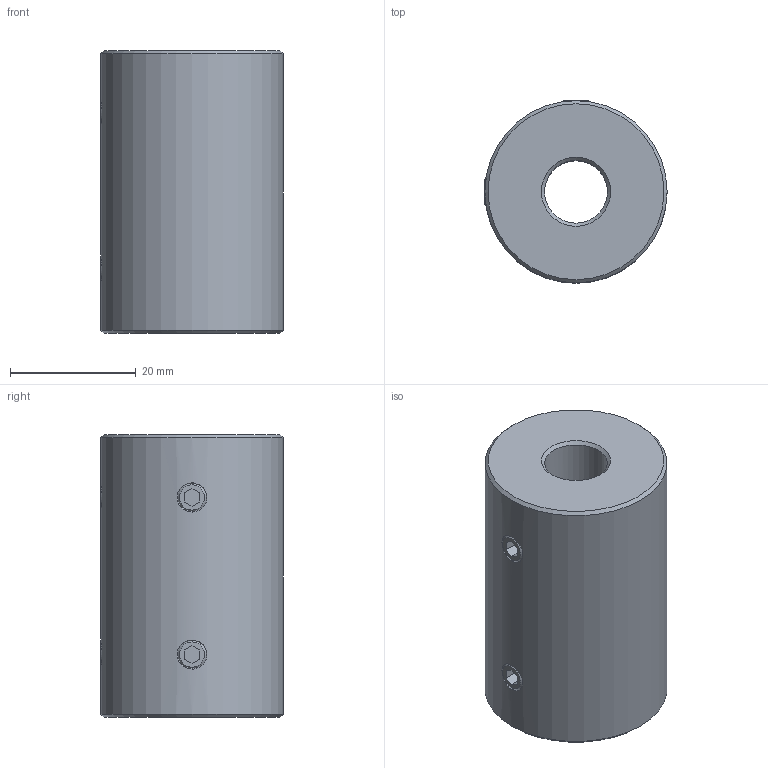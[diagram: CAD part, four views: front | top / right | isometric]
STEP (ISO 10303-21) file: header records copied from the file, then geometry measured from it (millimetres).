
FILE_DESCRIPTION (( 'STEP AP214' ), '1' );
FILE_NAME ('KBST1-VA-10.STEP', '2025-07-29T06:49:35', ( '' ), ( '' ), 'SwSTEP 2.0', 'SolidWorks 2024', '' );
FILE_SCHEMA (( 'AUTOMOTIVE_DESIGN' ));
Length unit declared in the file: millimetre
Products named in the file (1): KBST1-VA-10
Bounding box: 29 x 29 x 45 mm (x, y, z)
Volume: 25977.3 mm3; surface area: 7687.5 mm2
Topology: 5 solids, 5 shells, 80 faces, 178 edges, 104 vertices
Faces by surface type: plane 34, cone 28, cylinder 14, bspline 4
Full cylindrical faces by diameter (mm): 4.2 x4, 10 x1, 29 x1
Entity records: 7403 total; most frequent: CARTESIAN_POINT 4781, DIRECTION 338, ORIENTED_EDGE 312, EDGE_CURVE 156, AXIS2_PLACEMENT_3D 117, EDGE_LOOP 108, VERTEX_POINT 104, VECTOR 104
